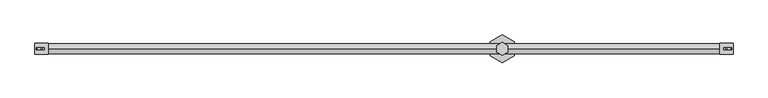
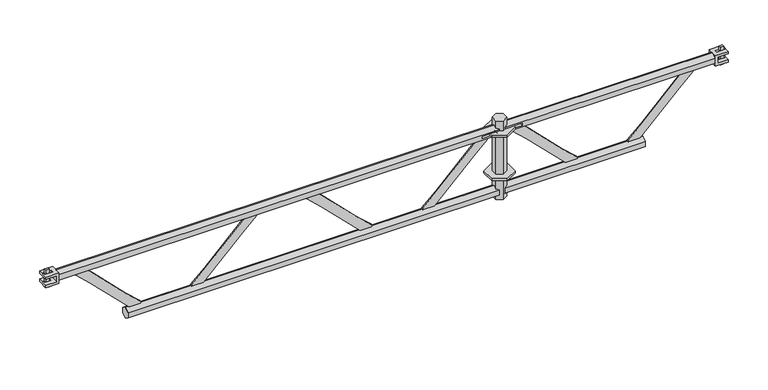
"""IFC4 building model written with IfcOpenShell, lengths in millimetres: proxy geometry, アルバトロスAK1.5スパンはりわく_軽 : アルバトロスAK1.5スパンはりわく_軽."""

from ifc_helpers import new_model, si_unit, point, frame, frame_2d, origin, place, context, project, spatial, polyline, circle_curve, trimmed, segment, composite_curve, outline, extrude, faceted_brep, source, transform, mapped, element, save
from ifc_brep_helpers import plane_surface, revolved_surface, advanced_brep


def generic_models_258c66e1(model_context):
    return source(origin(), model_context, "Body", "SolidModel", [
        extrude(outline(polyline([(1845.8993464, -26.5), (1800.0, -53.0), (1754.1006536, -26.5), (1754.1006536, 26.5), (1800.0, 53.0), (1845.8993464, 26.5), (1845.8993464, -26.5)])), frame((0.0, 0.0, -184.0), z_axis=(0.0, 0.0, 1.0), x_axis=(1.0, 0.0, 0.0)), (0.0, 0.0, 1.0), 8.0),
        extrude(outline(polyline([(1845.8993464, -26.5), (1800.0, -53.0), (1754.1006536, -26.5), (1754.1006536, 26.5), (1800.0, 53.0), (1845.8993464, 26.5), (1845.8993464, -26.5)])), frame((0.0, 0.0, -4.0), z_axis=(0.0, 0.0, 1.0), x_axis=(1.0, 0.0, 0.0)), (0.0, 0.0, 1.0), 8.0),
        faceted_brep([(1821.0444173, -12.15, 45.0), (1821.0444173, 12.15, 45.0), (1800.0, 24.3, 45.0), (1778.9555827, 12.15, 45.0), (1778.9555827, -12.15, 45.0), (1800.0, -24.3, 45.0), (1821.0444173, -12.15, -280.0), (1800.0, -24.3, -280.0), (1778.9555827, -12.15, -280.0), (1778.9555827, 12.15, -280.0), (1800.0, 24.3, -280.0), (1821.0444173, 12.15, -280.0), (1821.0444173, -12.15, 14.3351942), (1821.0444173, 0.0, 21.35), (1821.0444173, 12.15, 14.3351942), (1821.0444173, 12.15, -264.2851942), (1821.0444173, 0.0, -271.3), (1821.0444173, -12.15, -264.2851942), (1821.0444173, 0.0, -21.35), (1821.0444173, -12.15, -14.3351942), (1821.0444173, -12.15, -235.6148058), (1821.0444173, 0.0, -228.6), (1821.0444173, 12.15, -235.6148058), (1821.0444173, 12.15, -14.3351942), (1810.0638346, 18.4896424, 10.675), (1810.0638346, 18.4896424, -10.675), (1810.0638346, 18.4896424, -239.275), (1810.0638346, 18.4896424, -260.625), (1778.9555827, 12.15, -264.2851942), (1789.9361654, 18.4896424, -260.625), (1789.9361654, 18.4896424, -239.275), (1778.9555827, 12.15, -235.6148058), (1778.9555827, 12.15, -14.3351942), (1789.9361654, 18.4896424, -10.675), (1789.9361654, 18.4896424, 10.675), (1778.9555827, 12.15, 14.3351942), (1778.9555827, 0.0, 21.35), (1778.9555827, -12.15, 14.3351942), (1778.9555827, -12.15, -264.2851942), (1778.9555827, 0.0, -271.3), (1778.9555827, -12.15, -14.3351942), (1778.9555827, 0.0, -21.35), (1778.9555827, 0.0, -228.6), (1778.9555827, -12.15, -235.6148058), (1789.9361654, -18.4896424, 10.675), (1789.9361654, -18.4896424, -10.675), (1789.9361654, -18.4896424, -239.275), (1789.9361654, -18.4896424, -260.625), (1810.0638346, -18.4896424, -260.625), (1810.0638346, -18.4896424, -239.275), (1810.0638346, -18.4896424, -10.675), (1810.0638346, -18.4896424, 10.675)], [[[0, 1, 2, 3, 4, 5]], [[6, 7, 8, 9, 10, 11]], [[1, 0, 12, 13, 14]], [[6, 11, 15, 16, 17]], [[18, 19, 20, 21, 22, 23]], [[2, 1, 14, 24, 25, 23, 22, 26, 27, 15, 11, 10]], [[3, 2, 10, 9, 28, 29, 30, 31, 32, 33, 34, 35]], [[4, 3, 35, 36, 37]], [[9, 8, 38, 39, 28]], [[40, 41, 32, 31, 42, 43]], [[5, 4, 37, 44, 45, 40, 43, 46, 47, 38, 8, 7]], [[0, 5, 7, 6, 17, 48, 49, 20, 19, 50, 51, 12]], [[33, 25, 24, 34]], [[34, 24, 14, 13, 36, 35]], [[36, 13, 12, 51, 44, 37]], [[44, 51, 50, 45]], [[45, 50, 19, 18, 41, 40]], [[25, 33, 32, 41, 18, 23]], [[46, 49, 48, 47]], [[47, 48, 17, 16, 39, 38]], [[39, 16, 15, 27, 29, 28]], [[29, 27, 26, 30]], [[30, 26, 22, 21, 42, 31]], [[49, 46, 43, 42, 21, 20]]]),
        faceted_brep([(21.0592, 21.5, -12.0), (63.2817611, 21.5, -12.0), (63.2817611, 21.5, 12.0), (21.0592, 21.5, 12.0), (21.0592, 21.5, 21.5), (71.5, 21.5, 21.5), (71.5, 21.5, -21.5), (21.0592, 21.5, -21.5), (21.0592, -21.5, -12.0), (21.0592, -21.5, -21.5), (71.5, -21.5, -21.5), (71.5, -21.5, 21.5), (21.0592, -21.5, 21.5), (21.0592, -21.5, 12.0), (63.2817611, -21.5, 12.0), (63.2817611, -21.5, -12.0), (49.8, -4.25, -12.0), (25.5935462, -4.25, -12.0), (25.5935462, 4.25, -12.0), (49.8, 4.25, -12.0), (25.5935462, -4.25, 12.0), (56.8, -4.25, 12.0), (56.8, 4.25, 12.0), (25.5935462, 4.25, 12.0), (56.8, -4.25, 21.5), (25.5935462, -4.25, 21.5), (25.5935462, 4.25, 21.5), (56.8, 4.25, 21.5), (25.5935462, -4.25, -21.5), (49.8, -4.25, -21.5), (49.8, 4.25, -21.5), (25.5935462, 4.25, -21.5)], [[[0, 1, 2, 3, 4, 5, 6, 7]], [[8, 9, 10, 11, 12, 13, 14, 15]], [[1, 0, 8, 15], [16, 17, 18, 19]], [[3, 2, 14, 13], [20, 21, 22, 23]], [[4, 3, 13, 12]], [[5, 4, 12, 11], [24, 25, 26, 27]], [[7, 6, 10, 9], [28, 29, 30, 31]], [[0, 7, 9, 8]], [[20, 25, 24, 21]], [[21, 24, 27, 22]], [[22, 27, 26, 23]], [[25, 20, 23, 26]], [[28, 17, 16, 29]], [[29, 16, 19, 30]], [[30, 19, 18, 31]], [[17, 28, 31, 18]], [[2, 1, 15, 14]], [[6, 5, 11, 10]]]),
        extrude(outline(polyline([(29.8, 4.0), (43.6907349, 4.0), (43.6907349, -4.0), (29.8, -4.0), (29.8, 4.0)])), frame((0.0, 0.0, -36.75), z_axis=(0.0, 0.0, 1.0), x_axis=(1.0, 0.0, 0.0)), (0.0, 0.0, 1.0), 73.5),
        faceted_brep([(2678.9408, -21.5, -12.0), (2636.7182389, -21.5, -12.0), (2636.7182389, -21.5, 12.0), (2678.9408, -21.5, 12.0), (2678.9408, -21.5, 21.5), (2628.5, -21.5, 21.5), (2628.5, -21.5, -21.5), (2678.9408, -21.5, -21.5), (2678.9408, 21.5, -12.0), (2678.9408, 21.5, -21.5), (2628.5, 21.5, -21.5), (2628.5, 21.5, 21.5), (2678.9408, 21.5, 21.5), (2678.9408, 21.5, 12.0), (2636.7182389, 21.5, 12.0), (2636.7182389, 21.5, -12.0), (2650.2, 4.25, -12.0), (2674.4064538, 4.25, -12.0), (2674.4064538, -4.25, -12.0), (2650.2, -4.25, -12.0), (2674.4064538, 4.25, 12.0), (2643.2, 4.25, 12.0), (2643.2, -4.25, 12.0), (2674.4064538, -4.25, 12.0), (2643.2, 4.25, 21.5), (2674.4064538, 4.25, 21.5), (2674.4064538, -4.25, 21.5), (2643.2, -4.25, 21.5), (2674.4064538, 4.25, -21.5), (2650.2, 4.25, -21.5), (2650.2, -4.25, -21.5), (2674.4064538, -4.25, -21.5)], [[[0, 1, 2, 3, 4, 5, 6, 7]], [[8, 9, 10, 11, 12, 13, 14, 15]], [[1, 0, 8, 15], [16, 17, 18, 19]], [[3, 2, 14, 13], [20, 21, 22, 23]], [[4, 3, 13, 12]], [[5, 4, 12, 11], [24, 25, 26, 27]], [[7, 6, 10, 9], [28, 29, 30, 31]], [[0, 7, 9, 8]], [[20, 25, 24, 21]], [[21, 24, 27, 22]], [[22, 27, 26, 23]], [[25, 20, 23, 26]], [[28, 17, 16, 29]], [[29, 16, 19, 30]], [[30, 19, 18, 31]], [[17, 28, 31, 18]], [[2, 1, 15, 14]], [[6, 5, 11, 10]]]),
        extrude(outline(polyline([(2670.2, -4.0), (2656.3092651, -4.0), (2656.3092651, 4.0), (2670.2, 4.0), (2670.2, -4.0)])), frame((0.0, 0.0, -36.75), z_axis=(0.0, 0.0, 1.0), x_axis=(1.0, 0.0, 0.0)), (0.0, 0.0, 1.0), 73.5),
        extrude(outline(polyline([(18.4896424, -260.625), (0.0, -271.3), (-18.4896424, -260.625), (-18.4896424, -239.275), (0.0, -228.6), (18.4896424, -239.275), (18.4896424, -260.625)])), frame((1800.0, 0.0, 0.0), z_axis=(1.0, 0.0, 0.0), x_axis=(0.0, 1.0, 0.0)), (0.0, 0.0, 1.0), 557.5499295),
        extrude(outline(polyline([(18.4896424, -260.675), (0.0, -271.35), (-18.4896424, -260.675), (-18.4896424, -239.325), (0.0, -228.65), (18.4896424, -239.325), (18.4896424, -260.675)])), frame((342.85, 0.0, 0.0), z_axis=(1.0, 0.0, 0.0), x_axis=(0.0, 1.0, 0.0)), (0.0, 0.0, 1.0), 1457.15),
        extrude(outline(composite_curve([segment(trimmed(circle_curve(frame_2d((-645.2601599, -366.0853599)), 804.3367), [point((-27.527903, 149.0499482))], [point((-76.508225, 202.666575))], True, "CARTESIAN"), True, "CONTINUOUS"), segment(polyline([(-76.508225, 202.666575), (-229.89165, 356.05), (-249.95, 356.05), (-249.95, 401.0500018), (-222.1720512, 401.0500018)]), True, "CONTINUOUS"), segment(trimmed(circle_curve(frame_2d((395.5601849, 916.1853349)), 804.3367), [point((-222.1720512, 401.0500018))], [point((-173.19175, 347.4334))], True, "CARTESIAN"), True, "CONTINUOUS"), segment(polyline([(-173.19175, 347.4334), (-19.8083518, 194.0500018), (0.0, 194.0500018), (0.0, 149.0499482), (-27.527903, 149.0499482)]), True, "CONTINUOUS")], self_intersect=False)), frame((0.0, -2.5, 0.0), z_axis=(0.0, 1.0, 0.0), x_axis=(0.0, 0.0, 1.0)), (0.0, 0.0, 1.0), 5.0),
        faceted_brep([(2628.5, -18.6195462, 10.75), (2628.5, -18.6195462, -10.75), (2628.5, 0.0, -21.5), (2628.5, 18.6195462, -10.75), (2628.5, 18.6195462, 10.75), (2628.5, 0.0, 21.5), (1797.4058869, -18.6195462, 10.75), (1797.4058869, 0.0, 21.5), (1797.4058869, 18.6195462, 10.75), (1797.4058869, 18.6195462, -10.75), (1797.4058869, 0.0, -21.5), (1797.4058869, -18.6195462, -10.75), (1877.8, 18.6195462, 4.5), (1877.8, -18.6195462, 4.5), (1838.3, -18.6195462, 4.5), (1838.3, 18.6195462, 4.5), (1838.3, 18.6195462, -4.5), (1838.3, -18.6195462, -4.5), (1877.8, -18.6195462, -4.5), (1877.8, 18.6195462, -4.5)], [[[0, 1, 2, 3, 4, 5]], [[6, 7, 8, 9, 10, 11]], [[12, 13, 14, 15]], [[16, 17, 18, 19]], [[17, 16, 15, 14]], [[1, 0, 6, 11], [14, 13, 18, 17]], [[2, 1, 11, 10]], [[3, 2, 10, 9]], [[4, 3, 9, 8], [12, 15, 16, 19]], [[5, 4, 8, 7]], [[0, 5, 7, 6]], [[13, 12, 19, 18]]]),
        advanced_brep(
        [(1817.5872156, 18.4896424, 10.675), (1817.5872156, 0.0, 21.35), (1817.5872156, -18.4896424, 10.675), (1817.5872156, -18.4896424, 4.5), (1817.5872156, 18.4896424, 4.5), (1817.5872156, -18.4896424, -10.675), (1817.5872156, 0.0, -21.35), (1817.5872156, 18.4896424, -10.675), (1817.5872156, 18.4896424, -4.5), (1817.5872156, -18.4896424, -4.5), (71.5, 18.4896424, -10.675), (71.5, 0.0, -21.35), (71.5, -18.4896424, -10.675), (71.5, -18.4896424, 10.675), (71.5, 0.0, 21.35), (71.5, 18.4896424, 10.675), (1784.7, -18.4896424, 4.5), (1784.7, 18.4896424, 4.5), (1784.7, -18.4896424, -4.5), (1784.7, 18.4896424, -4.5), (1761.7, 18.4896424, 4.5), (1761.7, -18.4896424, 4.5), (1722.2, -18.4896424, 4.5), (1722.2, 18.4896424, 4.5), (1722.2, 18.4896424, -4.5), (1722.2, -18.4896424, -4.5), (1761.7, -18.4896424, -4.5), (1761.7, 18.4896424, -4.5)],
        [
            (0, 1),
            (1, 2),
            (2, 3),
            (3, 4),
            (4, 0),
            (5, 6),
            (6, 7),
            (7, 8),
            (8, 9),
            (9, 5),
            (10, 11),
            (11, 12),
            (12, 13),
            (13, 14),
            (14, 15),
            (15, 10),
            (16, 17),
            (17, 4),
            (3, 16),
            (16, 18, circle_curve(frame((1784.7, -18.4896424, 0.0), z_axis=(0.0, -1.0, 0.0), x_axis=(1.0, 0.0, 0.0)), 4.5)),
            (18, 19),
            (19, 17, circle_curve(frame((1784.7, 18.4896424, 0.0), z_axis=(0.0, 1.0, 0.0), x_axis=(1.0, 0.0, 0.0)), 4.5)),
            (18, 9),
            (8, 19),
            (20, 21),
            (21, 22),
            (22, 23),
            (23, 20),
            (24, 25),
            (25, 26),
            (26, 27),
            (27, 24),
            (20, 27),
            (26, 21),
            (15, 0),
            (7, 10),
            (23, 24),
            (14, 1),
            (13, 2),
            (12, 5),
            (25, 22),
            (11, 6),
        ],
        [
            plane_surface(frame((1817.5872156, 18.4896424, -10.675), z_axis=(1.0, 0.0, 0.0), x_axis=(0.0, 0.0, 1.0))),
            plane_surface(frame((71.5, 18.4896424, -10.675), z_axis=(-1.0, 0.0, 0.0), x_axis=(0.0, 0.0, -1.0))),
            plane_surface(frame((1819.7, -25.03115, 4.5), z_axis=(-2.6609208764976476e-11, 0.0, -1.0), x_axis=(0.0, 1.0, 0.0))),
            revolved_surface(polyline([(1789.2, -18.4896424, 0.0), (1789.2, 18.4896424, 0.0)]), (1784.7, 25.0312, 0.0), (0.0, -1.0, 0.0)),
            plane_surface(frame((1784.7, -25.03115, -4.5), z_axis=(0.0, 0.0, 1.0), x_axis=(0.0, 1.0, 0.0))),
            plane_surface(frame((1761.7, -25.03115, 4.5), z_axis=(0.0, 0.0, -1.0), x_axis=(0.0, 1.0, 0.0))),
            plane_surface(frame((1722.2, -25.03115, -4.5), z_axis=(0.0, 0.0, 1.0), x_axis=(0.0, 1.0, 0.0))),
            plane_surface(frame((1761.7, -25.03115, -4.5), z_axis=(-1.0, 0.0, 0.0), x_axis=(0.0, 1.0, 0.0))),
            plane_surface(frame((1817.5872156, 18.4896424, -10.675), z_axis=(0.0, 1.0, 0.0), x_axis=(-1.0, 0.0, 0.0))),
            plane_surface(frame((1817.5872156, 18.4896424, 10.675), z_axis=(0.0, 0.5000000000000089, 0.8660254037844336), x_axis=(-1.0, 0.0, 0.0))),
            plane_surface(frame((1817.5872156, 0.0, 21.35), z_axis=(0.0, -0.4999999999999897, 0.8660254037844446), x_axis=(-1.0, 0.0, 0.0))),
            plane_surface(frame((1817.5872156, -18.4896424, 10.675), z_axis=(0.0, -1.0, 0.0), x_axis=(-1.0, 0.0, 0.0))),
            plane_surface(frame((1817.5872156, -18.4896424, -10.675), z_axis=(0.0, -0.5000000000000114, -0.8660254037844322), x_axis=(-1.0, 0.0, 0.0))),
            plane_surface(frame((1817.5872156, 0.0, -21.35), z_axis=(0.0, 0.4999999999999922, -0.8660254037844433), x_axis=(-1.0, 0.0, 0.0))),
            plane_surface(frame((1722.2, -25.03115, 4.5), z_axis=(1.0, 0.0, 0.0), x_axis=(0.0, 1.0, 0.0))),
        ],
        [
            (0, [[1, 2, 3, 4, 5]]),
            (0, [[6, 7, 8, 9, 10]]),
            (1, [[11, 12, 13, 14, 15, 16]]),
            (2, [[17, 18, -4, 19]]),
            (3, [[-17, 20, 21, 22]]),
            (4, [[-21, 23, -9, 24]]),
            (5, [[25, 26, 27, 28]]),
            (6, [[29, 30, 31, 32]]),
            (7, [[-25, 33, -31, 34]]),
            (8, [[-16, 35, -5, -18, -22, -24, -8, 36], [-28, 37, -32, -33]]),
            (9, [[-1, -35, -15, 38]]),
            (10, [[-2, -38, -14, 39]]),
            (11, [[-13, 40, -10, -23, -20, -19, -3, -39], [-26, -34, -30, 41]]),
            (12, [[-6, -40, -12, 42]]),
            (13, [[-7, -42, -11, -36]]),
            (14, [[-29, -37, -27, -41]]),
        ],
    ),
        extrude(outline(composite_curve([segment(polyline([(-27.5279201, 851.3499813), (-1.71e-05, 851.3499813), (-1.71e-05, 806.3499278), (-19.8083689, 806.3499278), (-173.1917671, 652.9665296)]), True, "CONTINUOUS"), segment(trimmed(circle_curve(frame_2d((395.5601678, 84.2145946)), 804.3367), [point((-173.1917671, 652.9665296))], [point((-222.1720683, 599.3499278))], True, "CARTESIAN"), True, "CONTINUOUS"), segment(polyline([(-222.1720683, 599.3499278), (-249.9500171, 599.3499278), (-249.9500171, 644.3499295), (-229.8916671, 644.3499295), (-76.5082421, 797.7333545)]), True, "CONTINUOUS"), segment(trimmed(circle_curve(frame_2d((-645.260177, 1366.4852894)), 804.3367), [point((-76.5082421, 797.7333545))], [point((-27.5279201, 851.3499813))], True, "CARTESIAN"), True, "CONTINUOUS")], self_intersect=False)), frame((0.0, -2.5, 0.0), z_axis=(0.0, 1.0, 0.0), x_axis=(0.0, 0.0, 1.0)), (0.0, 0.0, 1.0), 5.0),
        extrude(outline(composite_curve([segment(trimmed(circle_curve(frame_2d((-645.2601623, 533.9146772)), 804.3367), [point((-27.5279054, 1049.0499853))], [point((-76.5082274, 1102.6666121))], True, "CARTESIAN"), True, "CONTINUOUS"), segment(polyline([(-76.5082274, 1102.6666121), (-229.8916524, 1256.0500371), (-249.9500024, 1256.0500371), (-249.9500024, 1301.0500389), (-222.1720536, 1301.0500389)]), True, "CONTINUOUS"), segment(trimmed(circle_curve(frame_2d((395.5601825, 1816.185372)), 804.3367), [point((-222.1720536, 1301.0500389))], [point((-173.1917524, 1247.4334371))], True, "CARTESIAN"), True, "CONTINUOUS"), segment(polyline([(-173.1917524, 1247.4334371), (-19.8083542, 1094.0500389), (-2.4e-06, 1094.0500389), (-2.4e-06, 1049.0499853), (-27.5279054, 1049.0499853)]), True, "CONTINUOUS")], self_intersect=False)), frame((0.0, -2.5, 0.0), z_axis=(0.0, 1.0, 0.0), x_axis=(0.0, 0.0, 1.0)), (0.0, 0.0, 1.0), 5.0),
        extrude(outline(composite_curve([segment(polyline([(-27.5279225, 1751.1500184), (-1.95e-05, 1751.1500184), (-1.95e-05, 1706.1499649), (-19.8083713, 1706.1499649), (-173.1917695, 1552.7665667)]), True, "CONTINUOUS"), segment(trimmed(circle_curve(frame_2d((395.5601654, 984.0146317)), 804.3367), [point((-173.1917695, 1552.7665667))], [point((-222.1720707, 1499.1499649))], True, "CARTESIAN"), True, "CONTINUOUS"), segment(polyline([(-222.1720707, 1499.1499649), (-249.9500195, 1499.1499649), (-249.9500195, 1544.1499666), (-229.8916695, 1544.1499666), (-76.5082445, 1697.5333916)]), True, "CONTINUOUS"), segment(trimmed(circle_curve(frame_2d((-645.2601794, 2266.2853265)), 804.3367), [point((-76.5082445, 1697.5333916))], [point((-27.5279225, 1751.1500184))], True, "CARTESIAN"), True, "CONTINUOUS")], self_intersect=False)), frame((0.0, -2.5, 0.0), z_axis=(0.0, 1.0, 0.0), x_axis=(0.0, 0.0, 1.0)), (0.0, 0.0, 1.0), 5.0),
        extrude(outline(composite_curve([segment(polyline([(-27.5279201, 2551.3499813), (-1.71e-05, 2551.3499813), (-1.71e-05, 2506.3499278), (-19.8083689, 2506.3499278), (-173.1917671, 2352.9665296)]), True, "CONTINUOUS"), segment(trimmed(circle_curve(frame_2d((395.5601678, 1784.2145946)), 804.3367), [point((-173.1917671, 2352.9665296))], [point((-222.1720683, 2299.3499278))], True, "CARTESIAN"), True, "CONTINUOUS"), segment(polyline([(-222.1720683, 2299.3499278), (-249.9500171, 2299.3499278), (-249.9500171, 2344.3499295), (-229.8916671, 2344.3499295), (-76.5082421, 2497.7333545)]), True, "CONTINUOUS"), segment(trimmed(circle_curve(frame_2d((-645.260177, 3066.4852894)), 804.3367), [point((-76.5082421, 2497.7333545))], [point((-27.5279201, 2551.3499813))], True, "CARTESIAN"), True, "CONTINUOUS")], self_intersect=False)), frame((0.0, -2.5, 0.0), z_axis=(0.0, 1.0, 0.0), x_axis=(0.0, 0.0, 1.0)), (0.0, 0.0, 1.0), 5.0),
        extrude(outline(composite_curve([segment(trimmed(circle_curve(frame_2d((-645.2601599, 1333.7146401)), 804.3367), [point((-27.527903, 1848.8499482))], [point((-76.508225, 1902.466575))], True, "CARTESIAN"), True, "CONTINUOUS"), segment(polyline([(-76.508225, 1902.466575), (-229.89165, 2055.85), (-249.95, 2055.85), (-249.95, 2100.8500018), (-222.1720512, 2100.8500018)]), True, "CONTINUOUS"), segment(trimmed(circle_curve(frame_2d((395.5601849, 2615.9853349)), 804.3367), [point((-222.1720512, 2100.8500018))], [point((-173.19175, 2047.2334))], True, "CARTESIAN"), True, "CONTINUOUS"), segment(polyline([(-173.19175, 2047.2334), (-19.8083518, 1893.8500018), (0.0, 1893.8500018), (0.0, 1848.8499482), (-27.527903, 1848.8499482)]), True, "CONTINUOUS")], self_intersect=False)), frame((0.0, -2.5, 0.0), z_axis=(0.0, 1.0, 0.0), x_axis=(0.0, 0.0, 1.0)), (0.0, 0.0, 1.0), 5.0),
    ])


if __name__ == "__main__":
    model = new_model("IFC4")
    model_context = context("Model", 3, world=origin())
    ifc_project = project(units=[si_unit("LENGTHUNIT", "METRE", prefix="MILLI")], contexts=[model_context])
    site = spatial("IfcSite", under=ifc_project)
    building = spatial("IfcBuilding", under=site)
    placement = place(None, origin())
    generic_models_shape = generic_models_258c66e1(model_context)
    element("IfcBuildingElementProxy", 1, Name="アルバトロスAK1.5スパンはりわく_軽 : アルバトロスAK1.5スパンはりわく_軽", ObjectType="アルバトロスAK1.5スパンはりわく_軽 : アルバトロスAK1.5スパンはりわく_軽", at=placement, inside=building, context=model_context, shape_type="MappedRepresentation", body=[
        mapped(generic_models_shape, transform((0.0, 0.0, 0.0), x_axis=(1.0, 0.0, 0.0), y_axis=(0.0, 1.0, 0.0), z_axis=(0.0, 0.0, 1.0))),
    ])
    save(model, "model.ifc")
